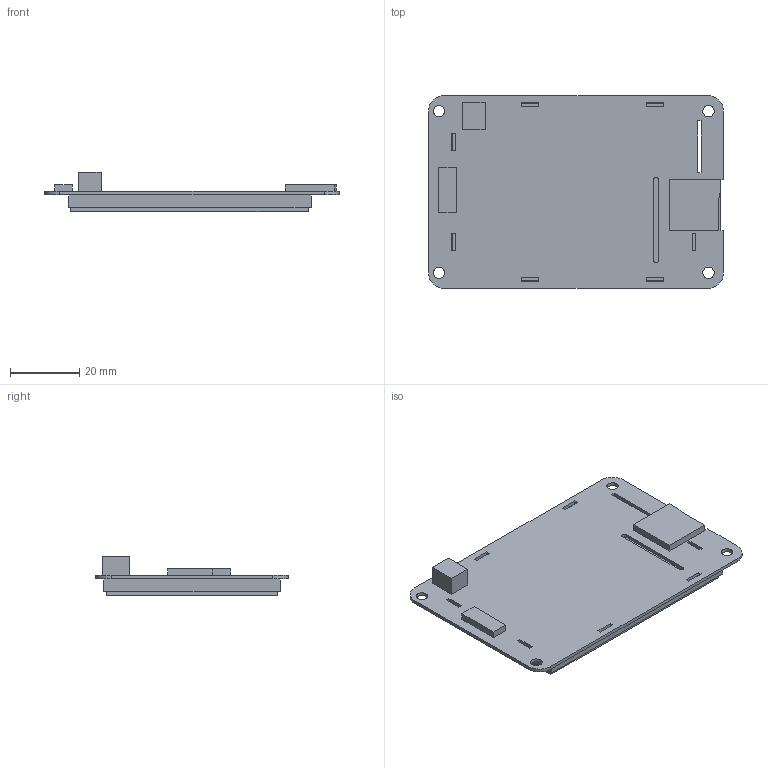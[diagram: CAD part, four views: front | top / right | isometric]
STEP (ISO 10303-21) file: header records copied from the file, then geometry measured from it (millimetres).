
FILE_DESCRIPTION((''),'2;1');
FILE_NAME('3D-DMT32240C028-06WT','2018-12-07T',('Administrator'),(''),'PRO/ENGINEER BY PARAMETRIC TECHNOLOGY CORPORATION, 2011310','PRO/ENGINEER BY PARAMETRIC TECHNOLOGY CORPORATION, 2011310','');
FILE_SCHEMA(('CONFIG_CONTROL_DESIGN','SHAPE_APPEARANCE_LAYERS_GROUPS'));
Length unit declared in the file: millimetre
Products named in the file (1): 3D-DMT32240C028-06WT
Bounding box: 85.22 x 55.63 x 11.5 mm (x, y, z)
Volume: 21671 mm3; surface area: 16692.4 mm2
Topology: 1 solids, 2 shells, 105 faces, 348 edges, 254 vertices
Faces by surface type: plane 87, cylinder 18
Entity records: 4696 total; most frequent: CARTESIAN_POINT 641, DIRECTION 598, ORIENTED_EDGE 572, VECTOR 312, LINE 312, EDGE_CURVE 286, VERTEX_POINT 186, PRESENTATION_STYLE_ASSIGNMENT 169
